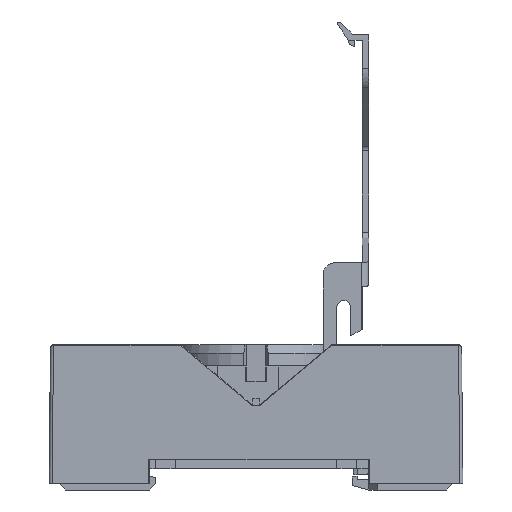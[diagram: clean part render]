
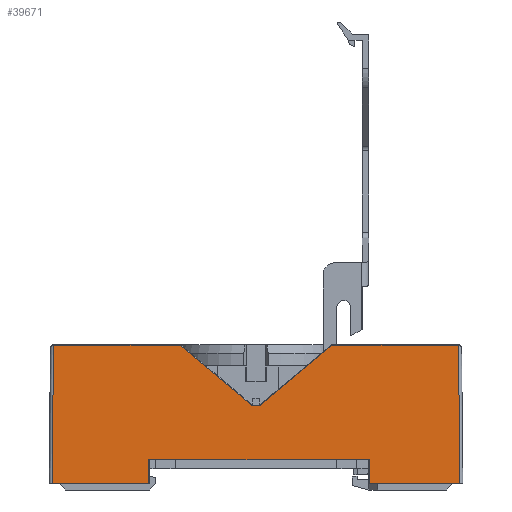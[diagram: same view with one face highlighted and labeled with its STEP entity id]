
A CAD part, left-side view. The second image highlights one B-rep face of the part: STEP entity #39671.
In plain terms, the highlighted planar face has unit normal (-1, 0, 0.009).
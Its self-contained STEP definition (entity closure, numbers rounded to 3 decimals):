
#906 = EDGE_CURVE ( 'NONE', #49074, #28672, #49204, .T. ) ;
#909 = DIRECTION ( 'NONE',  ( 0.009, -0.009, 1. ) ) ;
#1097 = ORIENTED_EDGE ( 'NONE', *, *, #18383, .T. ) ;
#1175 = DIRECTION ( 'NONE',  ( 0., 1., 0. ) ) ;
#1420 = CARTESIAN_POINT ( 'NONE',  ( 0.113, 34.738, 13.901 ) ) ;
#1565 = ORIENTED_EDGE ( 'NONE', *, *, #43916, .T. ) ;
#1887 = VERTEX_POINT ( 'NONE', #49689 ) ;
#2431 = CARTESIAN_POINT ( 'NONE',  ( 0., 67.875, 1. ) ) ;
#3017 = ORIENTED_EDGE ( 'NONE', *, *, #16030, .T. ) ;
#3245 = LINE ( 'NONE', #40394, #7868 ) ;
#3998 = VECTOR ( 'NONE', #909, 1000. ) ;
#4182 = DIRECTION ( 'NONE',  ( -0.006, 0.766, -0.643 ) ) ;
#5268 = CARTESIAN_POINT ( 'NONE',  ( 0., 51.945, 1. ) ) ;
#5545 = EDGE_CURVE ( 'NONE', #39807, #24704, #21134, .T. ) ;
#5845 = EDGE_CURVE ( 'NONE', #28672, #10932, #12309, .T. ) ;
#6912 = ORIENTED_EDGE ( 'NONE', *, *, #11812, .T. ) ;
#7479 = LINE ( 'NONE', #39875, #29875 ) ;
#7868 = VECTOR ( 'NONE', #31410, 1000. ) ;
#8057 = FACE_OUTER_BOUND ( 'NONE', #40518, .T. ) ;
#8712 = CARTESIAN_POINT ( 'NONE',  ( 0.2, 0.7, 23.901 ) ) ;
#8881 = CARTESIAN_POINT ( 'NONE',  ( 0.2, 21.72, 23.901 ) ) ;
#9471 = LINE ( 'NONE', #46341, #45778 ) ;
#9473 = ORIENTED_EDGE ( 'NONE', *, *, #42645, .T. ) ;
#9705 = DIRECTION ( 'NONE',  ( -0.009, 0.009, -1. ) ) ;
#10400 = CARTESIAN_POINT ( 'NONE',  ( 0.2, 46.719, 23.924 ) ) ;
#10932 = VERTEX_POINT ( 'NONE', #48046 ) ;
#11403 = VECTOR ( 'NONE', #50204, 1000. ) ;
#11412 = CARTESIAN_POINT ( 'NONE',  ( 0., 0.5, 1. ) ) ;
#11812 = EDGE_CURVE ( 'NONE', #27721, #39221, #25354, .T. ) ;
#12309 = LINE ( 'NONE', #28493, #26237 ) ;
#12880 = DIRECTION ( 'NONE',  ( 0., 1., 0. ) ) ;
#12910 = DIRECTION ( 'NONE',  ( 0., 1., 0. ) ) ;
#13448 = EDGE_CURVE ( 'NONE', #10932, #17116, #38268, .T. ) ;
#14167 = VECTOR ( 'NONE', #9705, 1000. ) ;
#14265 = CARTESIAN_POINT ( 'NONE',  ( 0., 15.431, 1. ) ) ;
#14483 = CARTESIAN_POINT ( 'NONE',  ( 0.113, 34.774, 13.901 ) ) ;
#14555 = EDGE_CURVE ( 'NONE', #34838, #39807, #25786, .T. ) ;
#15646 = CARTESIAN_POINT ( 'NONE',  ( 0.035, 51.91, 5. ) ) ;
#15818 = AXIS2_PLACEMENT_3D ( 'NONE', #21072, #25039, #33016 ) ;
#16030 = EDGE_CURVE ( 'NONE', #51227, #49074, #9471, .T. ) ;
#16328 = PLANE ( 'NONE',  #15818 ) ;
#17116 = VERTEX_POINT ( 'NONE', #14265 ) ;
#18383 = EDGE_CURVE ( 'NONE', #51802, #27721, #3245, .T. ) ;
#19659 = CARTESIAN_POINT ( 'NONE',  ( 0.2, 67.675, 23.901 ) ) ;
#20320 = ORIENTED_EDGE ( 'NONE', *, *, #32623, .T. ) ;
#20528 = DIRECTION ( 'NONE',  ( 0., -1., 0. ) ) ;
#21072 = CARTESIAN_POINT ( 'NONE',  ( 0.17, 34.188, 20.5 ) ) ;
#21134 = LINE ( 'NONE', #36530, #52424 ) ;
#22037 = ORIENTED_EDGE ( 'NONE', *, *, #5845, .T. ) ;
#24239 = VECTOR ( 'NONE', #42745, 1000. ) ;
#24374 = LINE ( 'NONE', #47966, #51554 ) ;
#24704 = VERTEX_POINT ( 'NONE', #19659 ) ;
#25039 = DIRECTION ( 'NONE',  ( -1., 0., 0.009 ) ) ;
#25048 = CARTESIAN_POINT ( 'NONE',  ( 0.159, 51.786, 19.166 ) ) ;
#25354 = LINE ( 'NONE', #8881, #50008 ) ;
#25578 = CARTESIAN_POINT ( 'NONE',  ( 0.2, 46.692, 23.901 ) ) ;
#25668 = DIRECTION ( 'NONE',  ( 0., -1., 0. ) ) ;
#25786 = LINE ( 'NONE', #10400, #11403 ) ;
#26115 = LINE ( 'NONE', #1420, #52348 ) ;
#26237 = VECTOR ( 'NONE', #20528, 1000. ) ;
#27721 = VERTEX_POINT ( 'NONE', #8712 ) ;
#28493 = CARTESIAN_POINT ( 'NONE',  ( 0.035, 15.588, 5. ) ) ;
#28672 = VERTEX_POINT ( 'NONE', #15646 ) ;
#28927 = ORIENTED_EDGE ( 'NONE', *, *, #14555, .T. ) ;
#29875 = VECTOR ( 'NONE', #35870, 1000. ) ;
#30405 = LINE ( 'NONE', #34376, #14167 ) ;
#31410 = DIRECTION ( 'NONE',  ( 0.009, 0.009, 1. ) ) ;
#31520 = CARTESIAN_POINT ( 'NONE',  ( 0.2, 21.684, 23.901 ) ) ;
#32623 = EDGE_CURVE ( 'NONE', #1887, #34838, #26115, .T. ) ;
#33016 = DIRECTION ( 'NONE',  ( 0.009, 0., 1. ) ) ;
#34376 = CARTESIAN_POINT ( 'NONE',  ( 0.173, 67.703, 20.792 ) ) ;
#34838 = VERTEX_POINT ( 'NONE', #14483 ) ;
#35224 = EDGE_CURVE ( 'NONE', #17116, #51802, #7479, .T. ) ;
#35870 = DIRECTION ( 'NONE',  ( 0., -1., 0. ) ) ;
#36530 = CARTESIAN_POINT ( 'NONE',  ( 0.2, 67.675, 23.901 ) ) ;
#38268 = LINE ( 'NONE', #41722, #24239 ) ;
#39221 = VERTEX_POINT ( 'NONE', #31520 ) ;
#39671 = ADVANCED_FACE ( 'NONE', ( #8057 ), #16328, .T. ) ;
#39807 = VERTEX_POINT ( 'NONE', #25578 ) ;
#39875 = CARTESIAN_POINT ( 'NONE',  ( 0., 0.188, 1. ) ) ;
#40394 = CARTESIAN_POINT ( 'NONE',  ( 0.173, 0.673, 20.792 ) ) ;
#40518 = EDGE_LOOP ( 'NONE', ( #1097, #6912, #1565, #20320, #28927, #51843, #9473, #3017, #41101, #22037, #43526, #48601 ) ) ;
#41101 = ORIENTED_EDGE ( 'NONE', *, *, #906, .T. ) ;
#41722 = CARTESIAN_POINT ( 'NONE',  ( 0.159, 15.589, 19.166 ) ) ;
#42645 = EDGE_CURVE ( 'NONE', #24704, #51227, #30405, .T. ) ;
#42745 = DIRECTION ( 'NONE',  ( -0.009, -0.009, -1. ) ) ;
#43526 = ORIENTED_EDGE ( 'NONE', *, *, #13448, .T. ) ;
#43916 = EDGE_CURVE ( 'NONE', #39221, #1887, #24374, .T. ) ;
#45778 = VECTOR ( 'NONE', #25668, 1000. ) ;
#46341 = CARTESIAN_POINT ( 'NONE',  ( 0., 51.788, 1. ) ) ;
#47966 = CARTESIAN_POINT ( 'NONE',  ( 0.113, 33.574, 13.924 ) ) ;
#48046 = CARTESIAN_POINT ( 'NONE',  ( 0.035, 15.465, 5. ) ) ;
#48601 = ORIENTED_EDGE ( 'NONE', *, *, #35224, .T. ) ;
#49074 = VERTEX_POINT ( 'NONE', #5268 ) ;
#49204 = LINE ( 'NONE', #25048, #3998 ) ;
#49689 = CARTESIAN_POINT ( 'NONE',  ( 0.113, 33.601, 13.901 ) ) ;
#50008 = VECTOR ( 'NONE', #1175, 1000. ) ;
#50204 = DIRECTION ( 'NONE',  ( 0.006, 0.766, 0.643 ) ) ;
#51227 = VERTEX_POINT ( 'NONE', #2431 ) ;
#51554 = VECTOR ( 'NONE', #4182, 1000. ) ;
#51802 = VERTEX_POINT ( 'NONE', #11412 ) ;
#51843 = ORIENTED_EDGE ( 'NONE', *, *, #5545, .T. ) ;
#52348 = VECTOR ( 'NONE', #12880, 1000. ) ;
#52424 = VECTOR ( 'NONE', #12910, 1000. ) ;
